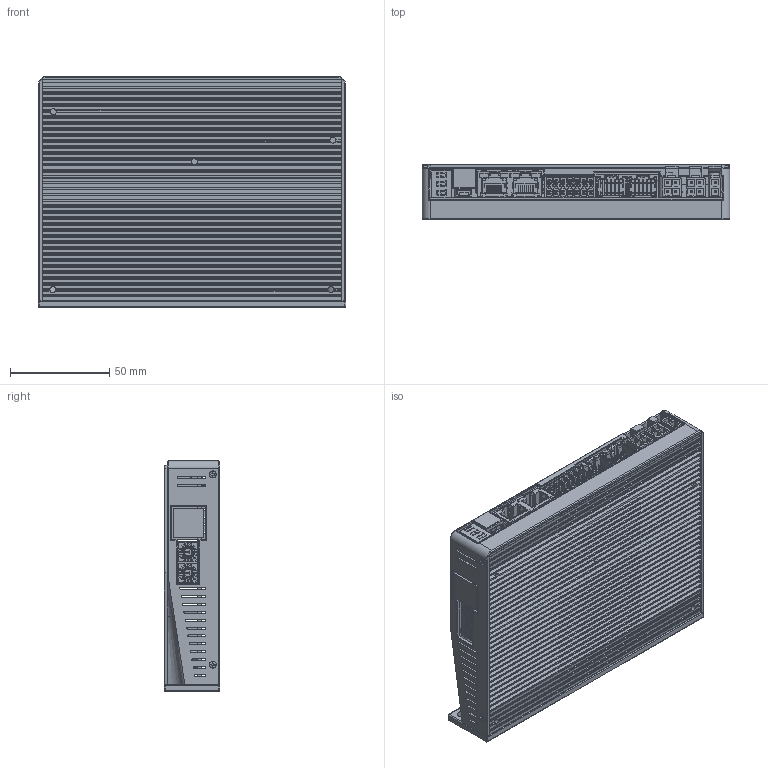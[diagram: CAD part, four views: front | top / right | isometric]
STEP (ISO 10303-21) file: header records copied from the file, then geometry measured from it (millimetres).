
FILE_DESCRIPTION((''),'2;1');
FILE_NAME('2CL3-EC507_ASM','2023-03-13T',('Administrator'),(''),'PRO/ENGINEER BY PARAMETRIC TECHNOLOGY CORPORATION, 2010280','PRO/ENGINEER BY PARAMETRIC TECHNOLOGY CORPORATION, 2010280','');
FILE_SCHEMA(('CONFIG_CONTROL_DESIGN','SHAPE_APPEARANCE_LAYERS_GROUPS'));
Products named in the file (15): PCB_2X_1; YL_2281BHR1_1; 5PIN_MINIUSB_SOCKET_1_1_1_2; C-1932389-1-3-3D__1; PHOENIX______2__7_1; 559591230_1; 039301040_1; 039301020_1; ROTARY_DRR3016-Z_FUJISOKU__1; PCB_CL3_EC507_2X_ASM_2_ASM_ASM; DB_CL3_EC507_2X_4; GZ_CL3_EC507_2X_12; SCREWS_2; ASM_CL3_EC507_2X_ASM_12_ASM_ASM; 2CL3-EC507_ASM
Assembly tree (20 placements, depth 4):
  2CL3-EC507_ASM
    ASM_CL3_EC507_2X_ASM_12_ASM_ASM
      PCB_CL3_EC507_2X_ASM_2_ASM_ASM
        PCB_2X_1
        YL_2281BHR1_1
        5PIN_MINIUSB_SOCKET_1_1_1_2
        C-1932389-1-3-3D__1
        PHOENIX______2__7_1
        559591230_1  x2
        039301040_1  x2
        039301020_1
        ROTARY_DRR3016-Z_FUJISOKU__1  x2
      DB_CL3_EC507_2X_4
      GZ_CL3_EC507_2X_12
      SCREWS_2  x4
Bounding box: 155 x 28 x 116.5 mm (x, y, z)
Volume: 167049 mm3; surface area: 178846.1 mm2
Topology: 18 solids, 18 shells, 5691 faces, 15604 edges, 10222 vertices
Faces by surface type: plane 4466, cylinder 841, extrusion 200, cone 162, sphere 12, bspline 8, torus 2
Entity records: 153801 total; most frequent: CARTESIAN_POINT 35722, ORIENTED_EDGE 25350, DIRECTION 22556, EDGE_CURVE 12675, VECTOR 10434, LINE 10334, VERTEX_POINT 8347, AXIS2_PLACEMENT_3D 6061
